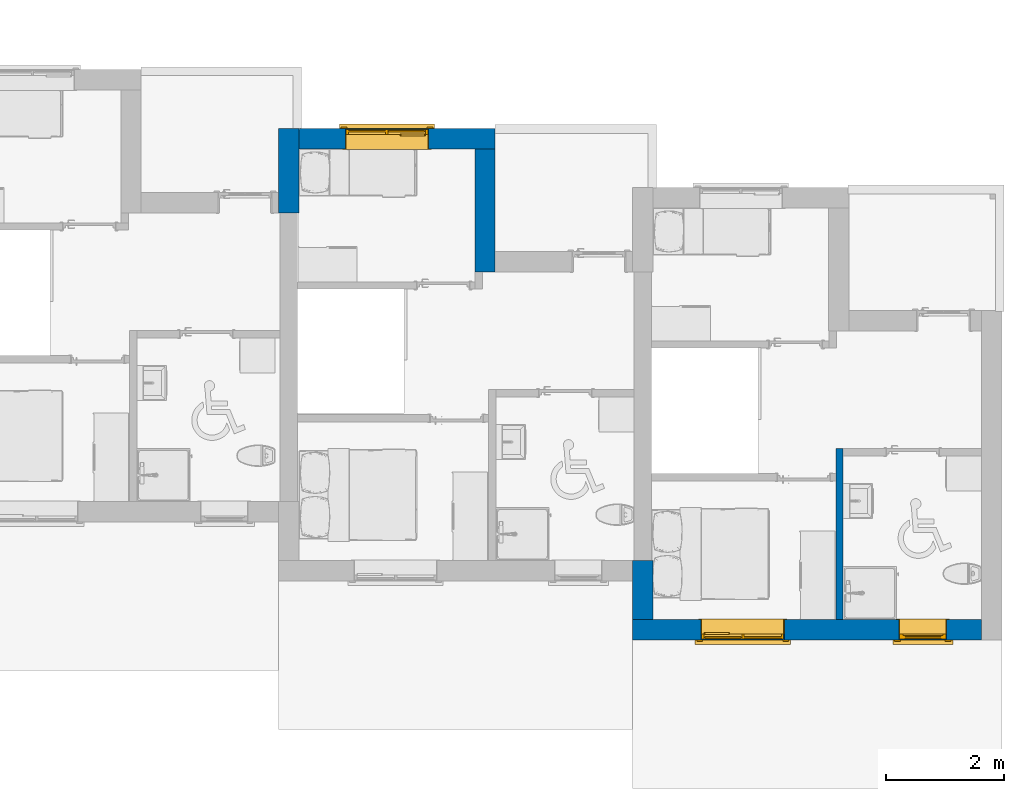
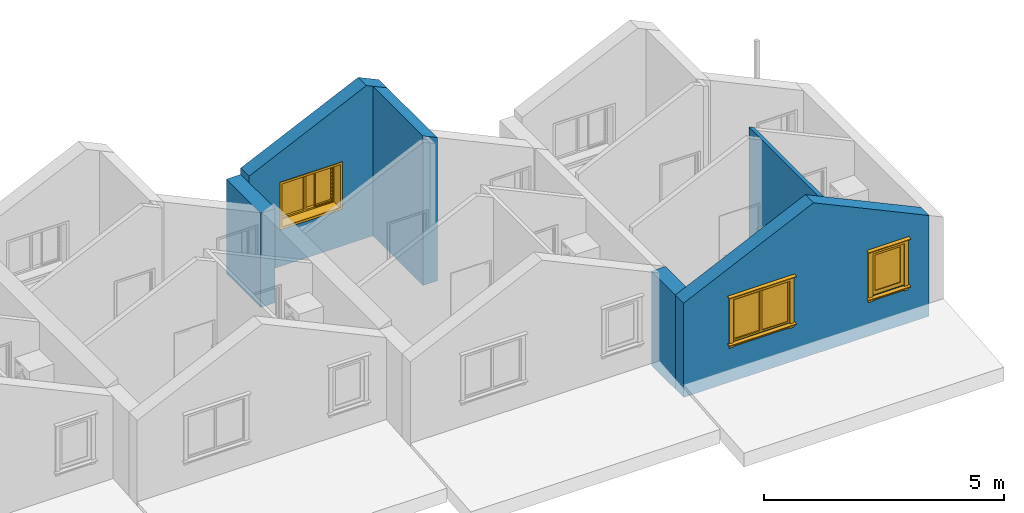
# One storey, part 21 of 44: 6 walls, 3 windows, 3 openings.
"""IFC2X3 building model written with IfcOpenShell, lengths in millimetres."""

from ifc_helpers import new_model, entity, si_unit, converted_unit, direction, frame, frame_2d, origin, place, context, subcontext, project, spatial, polyline, rectangle, extrude, clip, bounded_halfspace, faceted_brep, source, transform, mapped, material, material_list, layer, layer_set, layer_usage, type_object, type_shapes, element, fill, save


model = new_model("IFC2X3")

# Units and contexts
model_context = context("Model", 3, precision=0.01, world=origin(), true_north=direction((0.0, 1.0)))
body_context = subcontext(model_context, "Body", "Model", "MODEL_VIEW")
ifc_project = project(units=[si_unit("LENGTHUNIT", "METRE", prefix="MILLI"), si_unit("AREAUNIT", "SQUARE_METRE"), si_unit("VOLUMEUNIT", "CUBIC_METRE"), converted_unit("PLANEANGLEUNIT", "DEGREE", entity("IfcPlaneAngleMeasure", 0.017453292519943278), si_unit("PLANEANGLEUNIT", "RADIAN"), dimensions=[0, 0, 0, 0, 0, 0, 0])], contexts=[model_context])

# Site, building, storey
site_placement = place(None, origin())
site = spatial("IfcSite", under=ifc_project, at=site_placement, Name="Default", CompositionType="ELEMENT")
building_placement = place(site_placement, origin())
building = spatial("IfcBuilding", under=site, at=building_placement, CompositionType="ELEMENT")
storey_placement = place(building_placement, frame((0.0, 0.0, 2681.0)))
storey = spatial("IfcBuildingStorey", under=building, at=storey_placement, Name="Et. 2", CompositionType="ELEMENT", Elevation=2681.0)

# Wall
ifc_material_1 = material(Name="Vegg - Stående Kledning_smal - HVIT")
ifc_layer_1 = layer(ifc_material_1, 19.0)
ifc_material_2 = material(Name="Vegg - Utlekting")
ifc_layer_2 = layer(ifc_material_2, 36.0)
ifc_layer_3 = layer(ifc_material_2, 23.0)
ifc_material_3 = material(Name="Vegg - Gips - GU")
ifc_layer_4 = layer(ifc_material_3, 9.0)
ifc_material_4 = material(Name="Vegg - Stender - Isolert")
ifc_layer_5 = layer(ifc_material_4, 198.0)
ifc_material_5 = material(Name="Vegg - Påforing - Isolert")
ifc_layer_6 = layer(ifc_material_5, 48.0)
ifc_material_6 = material(Name="Vegg - Gips - Hvit")
ifc_layer_7 = layer(ifc_material_6, 13.000000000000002)
ifc_layer_set_1 = layer_set([ifc_layer_1, ifc_layer_2, ifc_layer_3, ifc_layer_4, ifc_layer_5, ifc_layer_6, ifc_layer_7], Name="Basic Wall:23-Kv(sm)TIG-19_36_23_9_198_48_13")
ifc_layer_usage_1 = layer_usage(ifc_layer_set_1, "AXIS2", "NEGATIVE", 173.0)
wall_type_1 = type_object("IfcWallType", Name="Basic Wall:23-Kv(sm)TIG-19_36_23_9_198_48_13", PredefinedType="STANDARD", material=ifc_layer_set_1)
wall_1_placement = place(storey_placement, frame((22178.00958675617, 15649.180957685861, 0.0), z_axis=(0.0, 0.0, 1.0), x_axis=(0.0, 1.0, 0.0)))
element("IfcWallStandardCase", 1, at=wall_1_placement, inside=storey, type_object=wall_type_1, material=ifc_layer_usage_1, Name="Basic Wall:23-Kv(sm)TIG-19_36_23_9_198_48_13", context=body_context, shape_type="SweptSolid", body=[
    extrude(rectangle(XDim=1432.9999999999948, YDim=345.9999999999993, at=frame_2d((716.4999999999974, 1.4210854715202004e-14), x_axis=(-1.0, 0.0))), origin(), (0.0, 0.0, 1.0), 2400.0),
])

# Wall, opening, window
ifc_layer_usage_2 = layer_usage(ifc_layer_set_1, "AXIS2", "NEGATIVE", 173.0)
wall_2_placement = place(storey_placement, frame((22351.009586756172, 16909.180957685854, 0.0)))
wall_2 = element("IfcWallStandardCase", 2, at=wall_2_placement, inside=storey, type_object=wall_type_1, material=ifc_layer_usage_2, Name="Basic Wall:23-Kv(sm)TIG-19_36_23_9_198_48_13", context=body_context, shape_type="Clipping", body=[
    clip(clip(extrude(rectangle(XDim=3326.9999999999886, YDim=345.9999999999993, at=frame_2d((1663.4999999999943, 3.410605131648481e-13), x_axis=(-1.0, 0.0))), origin(), (0.0, 0.0, 1.0), 3879.5941993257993), bounded_halfspace(frame((0.0, -173.0, 2561.342449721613), z_axis=(-0.42261826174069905, 0.0, 0.9063077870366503), x_axis=(0.0, -1.0, 0.0)), False, frame((0.0, -173.0, 2561.342449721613)), polyline([(0.0, 0.0), (2827.0, 0.0), (2827.0, 346.0), (0.0, 346.0), (0.0, 0.0)]))), bounded_halfspace(frame((2827.0, -173.0, 3879.5941993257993), z_axis=(0.42261826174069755, 0.0, 0.9063077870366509), x_axis=(0.0, 1.0, 0.0)), False, frame((2827.0, -173.0, 3879.5941993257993)), polyline([(0.0, 0.0), (154.0, 0.0), (500.0, 0.0), (500.0, 346.0), (0.0, 346.0), (0.0, 0.0)]))),
])
opening_1_placement = place(wall_2_placement, frame((787.0, -173.0, 990.0)))
opening_1 = element("IfcOpeningElement", 3, at=opening_1_placement, cuts=wall_2, Name="2 ruter vert-post åpning-fast m omramming:14x11M:1", ObjectType="Opening", context=body_context, shape_type="SweptSolid", body=[
    extrude(rectangle(XDim=1410.0000000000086, YDim=1109.9999999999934, at=frame_2d((554.9999999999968, 705.0000000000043), x_axis=(0.0, -1.0))), frame((0.0, 0.0, 0.0), z_axis=(0.0, 1.0, 0.0), x_axis=(0.0, 0.0, 1.0)), (0.0, 0.0, 1.0), 346.0),
])
ifc_material_7 = material(Name="Omramming")
ifc_material_8 = material(Name="Glass - Klart")
ifc_material_9 = material(Name="Karm")
ifc_material_list_1 = material_list([ifc_material_7, ifc_material_8, ifc_material_9])
window_style_1 = type_object("IfcWindowStyle", Name="2 ruter vert-post åpning-fast m omramming:14x11M", ConstructionType="NOTDEFINED", OperationType="NOTDEFINED", ParameterTakesPrecedence=False, Sizeable=False, material=ifc_material_list_1)
shared_shape_1 = source(origin(), body_context, "Body", "Brep", [
    faceted_brep([(-73.0, 368.0, 1199.153701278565), (25.0, 368.0, 1199.153701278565), (25.0, 368.0, 4.105117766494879), (-73.0, 368.0, 4.105117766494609), (1385.0, 346.0, -110.0), (1483.0, 346.0, -110.0), (1483.0, 346.0, -12.776075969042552), (1513.0, 346.0, -12.776075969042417), (1513.0, 346.0, 10.0), (1483.0, 346.0, 10.0), (1483.0, 346.0, 1199.153701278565), (1385.0, 346.0, 1199.153701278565), (1385.0, 346.0, 10.0), (25.0, 346.0, 10.0), (25.0, 346.0, 1199.153701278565), (-73.0, 346.0, 1199.153701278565), (-73.0, 346.0, 10.0), (-103.0, 346.0, 10.0), (-103.0, 346.0, -12.776075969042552), (-73.0, 346.0, -12.776075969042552), (-73.0, 346.0, -110.0), (25.0, 346.0, -110.0), (25.0, 346.0, -12.776075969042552), (1385.0, 346.0, -12.776075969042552), (1483.0, 368.0, 1199.153701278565), (1385.0, 368.0, 1199.153701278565), (1483.0, 368.0, 4.105117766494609), (1385.0, 368.0, -110.0), (1483.0, 368.0, -110.0), (1385.0, 368.0, 4.105117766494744), (-73.0, 368.0, -110.0), (25.0, 368.0, -110.0), (-103.0, 413.6148078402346, -30.89340912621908), (-103.0, 419.3088268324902, -9.643040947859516), (1513.0, 413.6148078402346, -30.89340912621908), (1513.0, 419.3088268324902, -9.643040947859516), (1483.0, 368.0, -18.670958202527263), (1385.0, 368.0, -18.670958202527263), (25.0, 368.0, -18.670958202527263), (-73.0, 368.0, -18.670958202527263)], [[[0, 1, 2, 3]], [[4, 5, 6, 7, 8, 9, 10, 11, 12, 13, 14, 15, 16, 17, 18, 19, 20, 21, 22, 23]], [[24, 25, 11, 10]], [[24, 10, 9, 26]], [[27, 28, 5, 4]], [[11, 25, 29, 12]], [[1, 0, 15, 14]], [[1, 14, 13, 2]], [[30, 31, 21, 20]], [[15, 0, 3, 16]], [[32, 18, 17, 33]], [[34, 35, 8, 7]], [[18, 32, 34, 7, 6, 36, 37, 23, 22, 38, 39, 19]], [[33, 17, 16, 3, 2, 13, 12, 29, 26, 9, 8, 35]], [[32, 33, 35, 34]], [[30, 20, 19, 39]], [[21, 31, 38, 22]], [[27, 4, 23, 37]], [[5, 28, 36, 6]], [[31, 30, 39, 38]], [[25, 24, 26, 29]], [[28, 27, 37, 36]]]),
    faceted_brep([(1513.0, 413.52687511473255, 1180.8011105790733), (1513.0, 418.4444369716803, 1199.153701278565), (1513.0, 346.0, 1218.5651296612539), (1513.0, 346.0, 1198.894882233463), (-103.0, 413.52687511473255, 1180.8011105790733), (-103.0, 346.0, 1198.894882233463), (-103.0, 346.0, 1218.5651296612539), (-103.0, 418.4444369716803, 1199.153701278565)], [[[0, 1, 2, 3]], [[4, 5, 6, 7]], [[1, 0, 4, 7]], [[2, 1, 7, 6]], [[3, 2, 6, 5]], [[0, 3, 5, 4]]]),
    faceted_brep([(25.0, 368.0, 1193.0), (1385.0, 368.0, 1193.0), (1385.0, 368.0, 1095.0), (25.0, 368.0, 1095.0), (25.0, 346.0, 1193.0), (25.0, 346.0, 1095.0), (1385.0, 346.0, 1095.0), (1385.0, 346.0, 1193.0)], [[[0, 1, 2, 3]], [[4, 5, 6, 7]], [[1, 0, 4, 7]], [[2, 1, 7, 6]], [[3, 2, 6, 5]], [[0, 3, 5, 4]]]),
    faceted_brep([(1385.0, 368.0, -20.0), (25.0, 368.0, -20.0), (25.0, 346.0, -20.0), (1385.0, 346.0, -20.0), (1385.0, 368.0, -92.0), (1385.0, 346.0, -92.0), (25.0, 368.0, -92.0), (25.0, 346.0, -92.0)], [[[0, 1, 2, 3]], [[4, 0, 3, 5]], [[6, 4, 5, 7]], [[1, 6, 7, 2]], [[2, 7, 5, 3]], [[1, 0, 4, 6]]]),
    faceted_brep([(1345.0, 288.49999999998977, 65.0), (1345.0, 288.4999999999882, 1045.0), (735.0, 288.4999999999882, 1045.0), (735.0, 288.49999999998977, 65.0), (1345.0, 313.49999999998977, 65.0), (735.0, 313.49999999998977, 65.0), (735.0, 313.4999999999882, 1045.0), (1345.0, 313.4999999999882, 1045.0)], [[[0, 1, 2, 3]], [[4, 5, 6, 7]], [[1, 0, 4, 7]], [[2, 1, 7, 6]], [[3, 2, 6, 5]], [[0, 3, 5, 4]]]),
    faceted_brep([(720.0, 331.0, 50.0), (720.0, 331.0, 1060.0), (720.0, 239.0, 1060.0), (720.0, 239.0, 50.0), (1400.0, 239.0, 10.0), (1400.0, 239.0, 1100.0), (10.0, 239.0, 1100.0), (10.0, 239.0, 10.0), (680.0, 239.0, 1060.0), (680.0, 239.0, 50.0), (50.0, 239.0, 50.0), (50.0, 239.0, 1060.0), (925.0, 239.0, 1060.0), (1360.0, 239.0, 1060.0), (1360.0, 239.0, 50.0), (925.0, 239.0, 50.0), (680.0, 331.0, 1060.0), (680.0, 331.0, 50.0), (1360.0, 331.0, 50.0), (1360.0, 331.0, 1060.0), (50.0, 331.0, 1060.0), (50.0, 331.0, 50.0), (1400.0, 331.0, 1100.0), (1400.0, 331.0, 10.0), (10.0, 331.0, 10.0), (10.0, 331.0, 1100.0), (1360.0, 248.0, 50.0), (1360.0, 248.0, 1060.0), (925.0, 248.0, 1060.0), (940.0, 216.0, 65.0), (940.0, 248.0, 65.0), (940.0, 248.0, 1045.0), (940.0, 216.0, 1045.0), (1345.0, 248.0, 1045.0), (1345.0, 216.0, 1045.0), (1345.0, 248.0, 65.0), (1345.0, 216.0, 65.0), (925.0, 248.0, 50.0), (925.0, 216.0, 50.0), (925.0, 216.0, 1060.0), (1360.0, 216.0, 1060.0), (1360.0, 216.0, 50.0)], [[[0, 1, 2, 3]], [[4, 5, 6, 7], [8, 9, 10, 11], [3, 2, 12, 13, 14, 15]], [[9, 8, 16, 17]], [[1, 0, 18, 19], [17, 16, 20, 21], [22, 23, 24, 25]], [[4, 23, 22, 5]], [[19, 18, 26, 27]], [[5, 22, 25, 6]], [[1, 19, 27, 28, 12, 2]], [[6, 25, 24, 7]], [[20, 11, 10, 21]], [[23, 4, 7, 24]], [[21, 10, 9, 17]], [[29, 30, 31, 32]], [[32, 31, 33, 34]], [[34, 33, 35, 36]], [[30, 29, 36, 35]], [[31, 30, 35, 33], [37, 28, 27, 26]], [[38, 39, 12, 28, 37, 15]], [[39, 40, 13, 12]], [[40, 41, 14, 13]], [[29, 32, 34, 36], [39, 38, 41, 40]], [[41, 38, 15, 14]], [[18, 0, 3, 15, 37, 26]], [[11, 20, 16, 8]]], outer=[[True], [True, False, False], [True], [False, False, True], [True], [True], [True], [True], [True], [True], [True], [True], [True], [True], [True], [True], [False, True], [True], [True], [True], [False, True], [True], [True], [True]]),
    faceted_brep([(680.0, 288.49999999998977, 50.0), (680.0, 288.4999999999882, 1060.0), (50.0, 288.4999999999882, 1060.0), (50.0, 288.49999999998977, 50.0), (680.0, 313.49999999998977, 50.0), (50.0, 313.49999999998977, 50.0), (50.0, 313.4999999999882, 1060.0), (680.0, 313.4999999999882, 1060.0)], [[[0, 1, 2, 3]], [[4, 5, 6, 7]], [[1, 0, 4, 7]], [[2, 1, 7, 6]], [[3, 2, 6, 5]], [[0, 3, 5, 4]]]),
    faceted_brep([(1410.0, 239.0, 1110.0), (1410.0, 239.0, 0.0), (0.0, 239.0, 0.0), (0.0, 239.0, 1110.0), (10.0, 239.0, 10.0), (1400.0, 239.0, 10.0), (1400.0, 239.0, 1100.0), (10.0, 239.0, 1100.0), (1410.0, 0.0, 1110.0), (0.0, 0.0, 1110.0), (0.0, 0.0, 0.0), (1410.0, 0.0, 0.0), (10.0, 0.0, 10.0), (10.0, 0.0, 1100.0), (1400.0, 0.0, 1100.0), (1400.0, 0.0, 10.0)], [[[0, 1, 2, 3], [4, 5, 6, 7]], [[8, 9, 10, 11], [12, 13, 14, 15]], [[1, 0, 8, 11]], [[2, 1, 11, 10]], [[3, 2, 10, 9]], [[0, 3, 9, 8]], [[5, 4, 12, 15]], [[6, 5, 15, 14]], [[7, 6, 14, 13]], [[4, 7, 13, 12]]]),
    faceted_brep([(1405.0, -12.0, 1105.0), (1405.0, 0.0, 1105.0), (1405.0, 0.0, 5.0), (1405.0, -12.0, 5.0), (1457.0, 0.0, 1157.0), (1457.0, -12.0, 1157.0), (1457.0, -12.0, -47.0), (1457.0, 0.0, -47.0), (5.0, 0.0, 5.0), (5.0, -12.0, 5.0), (-47.0, -12.0, -47.0), (-47.0, 0.0, -47.0), (5.0, 0.0, 1105.0), (5.0, -12.0, 1105.0), (-47.0, -12.0, 1157.0), (-47.0, 0.0, 1157.0)], [[[0, 1, 2, 3]], [[4, 5, 6, 7]], [[3, 2, 8, 9]], [[7, 6, 10, 11]], [[9, 8, 12, 13]], [[11, 10, 14, 15]], [[7, 11, 15, 4], [1, 12, 8, 2]], [[13, 12, 1, 0]], [[3, 9, 13, 0], [5, 14, 10, 6]], [[15, 14, 5, 4]]], outer=[[True], [True], [True], [True], [True], [True], [True, False], [True], [False, True], [True]]),
])
type_shapes(window_style_1, [shared_shape_1])
window_1_placement = place(opening_1_placement, origin())
window_1 = element("IfcWindow", 4, at=window_1_placement, inside=storey, type_object=window_style_1, material=ifc_material_list_1, Name="2 ruter vert-post åpning-fast m omramming:14x11M", OverallHeight=1109.9999999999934, OverallWidth=1410.0000000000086, context=body_context, shape_type="MappedRepresentation", body=[
    mapped(shared_shape_1, transform((0.0, 0.0, 0.0), scale=1.0)),
])
fill(opening_1, window_1)

# Wall, openings, windows
ifc_layer_usage_3 = layer_usage(ifc_layer_set_1, "AXIS2", "NEGATIVE", 173.0)
wall_3_placement = place(storey_placement, frame((33919.00958675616, 8581.180957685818, 0.0), z_axis=(0.0, 0.0, 1.0), x_axis=(-1.0, 0.0, 0.0)))
wall_3 = element("IfcWallStandardCase", 5, at=wall_3_placement, inside=storey, type_object=wall_type_1, material=ifc_layer_usage_3, Name="Basic Wall:23-Kv(sm)TIG-19_36_23_9_198_48_13", context=body_context, shape_type="Clipping", body=[
    clip(clip(extrude(rectangle(XDim=5913.999999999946, YDim=346.0000000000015, at=frame_2d((2956.999999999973, -7.958078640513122e-13), x_axis=(-1.0, 0.0))), origin(), (0.0, 0.0, 1.0), 3859.542970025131), bounded_halfspace(frame((0.0, 173.0, 2561.342449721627), z_axis=(-0.42261826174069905, 0.0, 0.9063077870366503), x_axis=(0.0, -1.0, 0.0)), False, frame((0.0, 173.0, 2561.342449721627)), polyline([(0.0, 0.0), (0.0, -346.0), (2341.0, -346.0), (2467.0, -346.0), (2784.0, -346.0), (2784.0, 0.0), (0.0, 0.0)]))), bounded_halfspace(frame((5914.0, -173.0, 2400.0), z_axis=(0.42261826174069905, 0.0, 0.9063077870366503), x_axis=(0.0, 1.0, 0.0)), False, frame((5914.0, -173.0, 2400.0)), polyline([(0.0, 0.0), (0.0, 346.0), (-3130.0, 346.0), (-3130.0, 0.0), (0.0, 0.0)]))),
])
opening_2_placement = place(wall_3_placement, frame((3340.0, -173.0, 990.0)))
opening_2 = element("IfcOpeningElement", 6, at=opening_2_placement, cuts=wall_3, Name="2 ruter vert-post åpning-fast m omramming:14x11M:1", ObjectType="Opening", context=body_context, shape_type="SweptSolid", body=[
    extrude(rectangle(XDim=1410.0000000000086, YDim=1109.9999999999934, at=frame_2d((554.9999999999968, 705.0000000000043), x_axis=(0.0, -1.0))), frame((0.0, 0.0, 0.0), z_axis=(0.0, 1.0, 0.0), x_axis=(0.0, 0.0, 1.0)), (0.0, 0.0, 1.0), 346.0),
])
opening_3_placement = place(wall_3_placement, frame((587.0, -173.0, 990.0)))
opening_3 = element("IfcOpeningElement", 7, at=opening_3_placement, cuts=wall_3, Name="Hel Rute Åpningsvindu m omramming:8x11M:1", ObjectType="Opening", context=body_context, shape_type="SweptSolid", body=[
    extrude(rectangle(XDim=809.9999999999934, YDim=1109.9999999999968, at=frame_2d((554.9999999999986, 404.9999999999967), x_axis=(0.0, -1.0))), frame((0.0, 0.0, 0.0), z_axis=(0.0, 1.0, 0.0), x_axis=(0.0, 0.0, 1.0)), (0.0, 0.0, 1.0), 346.0),
])
window_2_placement = place(opening_2_placement, origin())
window_2 = element("IfcWindow", 8, at=window_2_placement, inside=storey, type_object=window_style_1, material=ifc_material_list_1, Name="2 ruter vert-post åpning-fast m omramming:14x11M", OverallHeight=1109.9999999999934, OverallWidth=1410.0000000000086, context=body_context, shape_type="MappedRepresentation", body=[
    mapped(shared_shape_1, transform((0.0, 0.0, 0.0), scale=1.0)),
])
fill(opening_2, window_2)
ifc_material_list_2 = material_list([ifc_material_7, ifc_material_9, ifc_material_8])
window_style_2 = type_object("IfcWindowStyle", Name="Hel Rute Åpningsvindu m omramming:8x11M", ConstructionType="NOTDEFINED", OperationType="NOTDEFINED", ParameterTakesPrecedence=False, Sizeable=False, material=ifc_material_list_2)
shared_shape_2 = source(origin(), body_context, "Body", "Brep", [
    faceted_brep([(-73.0, 368.0, 1189.1537012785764), (25.0, 368.0, 1189.1537012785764), (25.0, 368.0, -5.894882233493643), (-73.0, 368.0, -5.894882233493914), (785.0, 346.0, -120.0), (883.0, 346.0, -120.0), (883.0, 346.0, -22.776075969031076), (913.0, 346.0, -22.77607596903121), (913.0, 346.0, 0.0), (883.0, 346.0, 0.0), (883.0, 346.0, 1189.1537012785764), (785.0, 346.0, 1189.1537012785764), (785.0, 346.0, 0.0), (25.0, 346.0, 0.0), (25.0, 346.0, 1189.1537012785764), (-73.0, 346.0, 1189.1537012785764), (-73.0, 346.0, 0.0), (-103.0, 346.0, 0.0), (-103.0, 346.0, -22.776075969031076), (-73.0, 346.0, -22.776075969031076), (-73.0, 346.0, -120.0), (25.0, 346.0, -120.0), (25.0, 346.0, -22.776075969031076), (785.0, 346.0, -22.776075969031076), (883.0, 368.0, 1189.1537012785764), (785.0, 368.0, 1189.1537012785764), (883.0, 368.0, -5.894882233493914), (785.0, 368.0, -120.0), (883.0, 368.0, -120.0), (785.0, 368.0, -5.894882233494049), (-73.0, 368.0, -120.0), (25.0, 368.0, -120.0), (-103.0, 413.6148078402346, -40.89340912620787), (-103.0, 419.3088268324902, -19.64304094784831), (913.0, 413.6148078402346, -40.89340912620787), (913.0, 419.3088268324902, -19.64304094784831), (883.0, 368.0, -28.67095820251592), (785.0, 368.0, -28.670958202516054), (25.0, 368.0, -28.67095820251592), (-73.0, 368.0, -28.670958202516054)], [[[0, 1, 2, 3]], [[4, 5, 6, 7, 8, 9, 10, 11, 12, 13, 14, 15, 16, 17, 18, 19, 20, 21, 22, 23]], [[24, 25, 11, 10]], [[24, 10, 9, 26]], [[27, 28, 5, 4]], [[11, 25, 29, 12]], [[1, 0, 15, 14]], [[1, 14, 13, 2]], [[30, 31, 21, 20]], [[15, 0, 3, 16]], [[32, 18, 17, 33]], [[34, 35, 8, 7]], [[18, 32, 34, 7, 6, 36, 37, 23, 22, 38, 39, 19]], [[33, 17, 16, 3, 2, 13, 12, 29, 26, 9, 8, 35]], [[32, 33, 35, 34]], [[30, 20, 19, 39]], [[21, 31, 38, 22]], [[27, 4, 23, 37]], [[5, 28, 36, 6]], [[31, 30, 39, 38]], [[25, 24, 26, 29]], [[28, 27, 37, 36]]]),
    faceted_brep([(913.0, 413.52687511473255, 1170.8011105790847), (913.0, 418.4444369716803, 1189.1537012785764), (913.0, 346.0, 1208.5651296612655), (913.0, 346.0, 1188.8948822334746), (-103.0, 413.52687511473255, 1170.8011105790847), (-103.0, 346.0, 1188.8948822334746), (-103.0, 346.0, 1208.5651296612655), (-103.0, 418.4444369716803, 1189.1537012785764)], [[[0, 1, 2, 3]], [[4, 5, 6, 7]], [[1, 0, 4, 7]], [[2, 1, 7, 6]], [[3, 2, 6, 5]], [[0, 3, 5, 4]]]),
    faceted_brep([(25.0, 368.0, 1183.0), (785.0, 368.0, 1183.0), (785.0, 368.0, 1085.0), (25.0, 368.0, 1085.0), (25.0, 346.0, 1183.0), (25.0, 346.0, 1085.0), (785.0, 346.0, 1085.0), (785.0, 346.0, 1183.0)], [[[0, 1, 2, 3]], [[4, 5, 6, 7]], [[1, 0, 4, 7]], [[2, 1, 7, 6]], [[3, 2, 6, 5]], [[0, 3, 5, 4]]]),
    faceted_brep([(785.0, 368.0, -30.0), (25.0, 368.0, -30.0), (25.0, 346.0, -30.0), (785.0, 346.0, -30.0), (785.0, 368.0, -102.0), (785.0, 346.0, -102.0), (25.0, 368.0, -102.0), (25.0, 346.0, -102.0)], [[[0, 1, 2, 3]], [[4, 0, 3, 5]], [[6, 4, 5, 7]], [[1, 6, 7, 2]], [[2, 7, 5, 3]], [[1, 0, 4, 6]]]),
    faceted_brep([(100.0, 271.0, 100.0), (100.0, 331.0, 100.0), (100.0, 331.0, 1010.0), (100.0, 271.0, 1010.0), (50.0, 331.0, 50.0), (50.0, 271.0, 50.0), (50.0, 271.0, 1060.0), (50.0, 331.0, 1060.0), (710.0, 331.0, 1010.0), (710.0, 271.0, 1010.0), (760.0, 271.0, 1060.0), (760.0, 331.0, 1060.0), (710.0, 331.0, 100.0), (710.0, 271.0, 100.0), (760.0, 271.0, 50.0), (760.0, 331.0, 50.0)], [[[0, 1, 2, 3]], [[4, 5, 6, 7]], [[3, 2, 8, 9]], [[7, 6, 10, 11]], [[9, 8, 12, 13]], [[11, 10, 14, 15]], [[13, 12, 1, 0]], [[3, 9, 13, 0], [5, 14, 10, 6]], [[15, 14, 5, 4]], [[7, 11, 15, 4], [1, 12, 8, 2]]], outer=[[True], [True], [True], [True], [True], [True], [True], [False, True], [True], [True, False]]),
    faceted_brep([(710.0, 288.4999999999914, 100.0), (710.0, 288.49999999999, 1010.0), (100.0, 288.49999999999, 1010.0), (100.0, 288.4999999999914, 100.0), (710.0, 313.4999999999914, 100.0), (100.0, 313.4999999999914, 100.0), (100.0, 313.49999999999, 1010.0), (710.0, 313.49999999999, 1010.0)], [[[0, 1, 2, 3]], [[4, 5, 6, 7]], [[1, 0, 4, 7]], [[2, 1, 7, 6]], [[3, 2, 6, 5]], [[0, 3, 5, 4]]]),
    faceted_brep([(800.0, 239.0, 10.0), (800.0, 331.0, 10.0), (800.0, 331.0, 1100.0), (800.0, 239.0, 1100.0), (760.0, 331.0, 1060.0), (760.0, 331.0, 50.0), (760.0, 271.0, 50.0), (760.0, 271.0, 1060.0), (10.0, 331.0, 1100.0), (10.0, 239.0, 1100.0), (50.0, 331.0, 1060.0), (50.0, 271.0, 1060.0), (10.0, 331.0, 10.0), (10.0, 239.0, 10.0), (50.0, 331.0, 50.0), (50.0, 271.0, 50.0), (65.0, 239.0, 65.0), (65.0, 239.0, 1045.0), (745.0, 239.0, 1045.0), (745.0, 239.0, 65.0), (65.0, 271.0, 65.0), (65.0, 271.0, 1045.0), (745.0, 271.0, 1045.0), (745.0, 271.0, 65.0)], [[[0, 1, 2, 3]], [[4, 5, 6, 7]], [[3, 2, 8, 9]], [[10, 4, 7, 11]], [[9, 8, 12, 13]], [[14, 10, 11, 15]], [[2, 1, 12, 8], [5, 4, 10, 14]], [[1, 0, 13, 12]], [[0, 3, 9, 13], [16, 17, 18, 19]], [[5, 14, 15, 6]], [[16, 20, 21, 17]], [[17, 21, 22, 18]], [[18, 22, 23, 19]], [[20, 16, 19, 23]], [[7, 6, 15, 11], [21, 20, 23, 22]]]),
    faceted_brep([(810.0, 239.0, 1110.0), (810.0, 239.0, 0.0), (0.0, 239.0, 0.0), (0.0, 239.0, 1110.0), (10.0, 239.0, 10.0), (800.0, 239.0, 10.0), (800.0, 239.0, 1100.0), (10.0, 239.0, 1100.0), (810.0, 0.0, 1110.0), (0.0, 0.0, 1110.0), (0.0, 0.0, 0.0), (810.0, 0.0, 0.0), (10.0, 0.0, 10.0), (10.0, 0.0, 1100.0), (800.0, 0.0, 1100.0), (800.0, 0.0, 10.0)], [[[0, 1, 2, 3], [4, 5, 6, 7]], [[8, 9, 10, 11], [12, 13, 14, 15]], [[1, 0, 8, 11]], [[2, 1, 11, 10]], [[3, 2, 10, 9]], [[0, 3, 9, 8]], [[5, 4, 12, 15]], [[6, 5, 15, 14]], [[7, 6, 14, 13]], [[4, 7, 13, 12]]]),
    faceted_brep([(5.0, -12.0, 1105.0), (5.0, 0.0, 1105.0), (805.0, 0.0, 1105.0), (805.0, -12.0, 1105.0), (-47.0, 0.0, 1157.0), (-47.0, -12.0, 1157.0), (857.0, -12.0, 1157.0), (857.0, 0.0, 1157.0), (805.0, 0.0, 5.0), (805.0, -12.0, 5.0), (857.0, -12.0, -47.0), (857.0, 0.0, -47.0), (5.0, 0.0, 5.0), (5.0, -12.0, 5.0), (-47.0, -12.0, -47.0), (-47.0, 0.0, -47.0)], [[[0, 1, 2, 3]], [[4, 5, 6, 7]], [[3, 2, 8, 9]], [[7, 6, 10, 11]], [[9, 8, 12, 13]], [[11, 10, 14, 15]], [[7, 11, 15, 4], [1, 12, 8, 2]], [[13, 12, 1, 0]], [[3, 9, 13, 0], [5, 14, 10, 6]], [[15, 14, 5, 4]]], outer=[[True], [True], [True], [True], [True], [True], [True, False], [True], [False, True], [True]]),
])
type_shapes(window_style_2, [shared_shape_2])
window_3_placement = place(opening_3_placement, origin())
window_3 = element("IfcWindow", 9, at=window_3_placement, inside=storey, type_object=window_style_2, material=ifc_material_list_2, Name="Hel Rute Åpningsvindu m omramming:8x11M", OverallHeight=1109.9999999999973, OverallWidth=809.9999999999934, context=body_context, shape_type="MappedRepresentation", body=[
    mapped(shared_shape_2, transform((0.0, 0.0, 0.0), scale=1.0)),
])
fill(opening_3, window_3)

# Walls
ifc_layer_usage_4 = layer_usage(ifc_layer_set_1, "AXIS2", "NEGATIVE", 173.0)
wall_4_placement = place(storey_placement, frame((28178.009586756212, 8754.180957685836, 0.0), z_axis=(0.0, 0.0, 1.0), x_axis=(0.0, 1.0, 0.0)))
element("IfcWallStandardCase", 10, at=wall_4_placement, inside=storey, type_object=wall_type_1, material=ifc_layer_usage_4, Name="Basic Wall:23-Kv(sm)TIG-19_36_23_9_198_48_13", context=body_context, shape_type="SweptSolid", body=[
    extrude(rectangle(XDim=1000.0000000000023, YDim=345.9999999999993, at=frame_2d((500.00000000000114, 0.0), x_axis=(-1.0, 0.0))), origin(), (0.0, 0.0, 1.0), 2400.0),
])
ifc_layer_usage_5 = layer_usage(ifc_layer_set_1, "AXIS2", "NEGATIVE", 173.0)
wall_5_placement = place(storey_placement, frame((25505.00958675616, 16736.180957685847, 0.0), z_axis=(0.0, 0.0, 1.0), x_axis=(0.0, -1.0, 0.0)))
element("IfcWallStandardCase", 11, at=wall_5_placement, inside=storey, type_object=wall_type_1, material=ifc_layer_usage_5, Name="Basic Wall:23-Kv(sm)TIG-19_36_23_9_198_48_13", context=body_context, shape_type="Clipping", body=[
    clip(extrude(rectangle(XDim=2087.000000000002, YDim=345.9999999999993, at=frame_2d((1043.500000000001, 5.258016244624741e-13), x_axis=(-1.0, 0.0))), origin(), (0.0, 0.0, 1.0), 3807.782819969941), bounded_halfspace(frame((0.0, -173.0, 3807.782819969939), z_axis=(0.0, 0.42261826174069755, 0.9063077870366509), x_axis=(-1.0, 0.0, 0.0)), False, frame((0.0, -173.0, 3807.782819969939)), polyline([(0.0, 0.0), (2087.0, 0.0), (2087.0, 6.0), (2087.0, 132.0), (2087.0, 346.0), (1741.0, 346.0), (0.0, 346.0), (0.0, 0.0)]))),
])
ifc_material_10 = material(Name="Vegg - Gips - Innvendig - Hvit")
ifc_layer_8 = layer(ifc_material_10, 13.000000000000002)
ifc_material_11 = material(Name="Vegg - Stender - Stål - Isolert")
ifc_layer_9 = layer(ifc_material_11, 100.0)
ifc_layer_10 = layer(ifc_material_10, 13.000000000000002)
ifc_layer_set_2 = layer_set([ifc_layer_8, ifc_layer_9, ifc_layer_10], Name="Basic Wall:24-GSIG-13_100_13")
ifc_layer_usage_6 = layer_usage(ifc_layer_set_2, "AXIS2", "NEGATIVE", 63.00000000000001)
wall_type_2 = type_object("IfcWallType", Name="Basic Wall:24-GSIG-13_100_13", PredefinedType="STANDARD", material=ifc_layer_set_2)
wall_6_placement = place(storey_placement, frame((31515.00958675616, 11658.058719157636, 0.0), z_axis=(0.0, 0.0, 1.0), x_axis=(0.0, -1.0, 0.0)))
element("IfcWallStandardCase", 12, at=wall_6_placement, inside=storey, type_object=wall_type_2, material=ifc_layer_usage_6, Name="Basic Wall:24-GSIG-13_100_13", context=body_context, shape_type="Clipping", body=[
    clip(extrude(rectangle(XDim=2903.877761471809, YDim=125.99999999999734, at=frame_2d((1451.9388807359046, 4.405364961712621e-13), x_axis=(-1.0, 0.0))), origin(), (0.0, 0.0, 1.0), 3711.7234423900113), bounded_halfspace(frame((0.0, -63.0, 3711.7234423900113), z_axis=(0.0, 0.42261826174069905, 0.9063077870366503), x_axis=(-1.0, 0.0, 0.0)), False, frame((0.0, -63.0, 3711.7234423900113)), polyline([(0.0, 0.0), (426.0, 0.0), (552.0, 0.0), (2903.8777614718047, 0.0), (2903.8777614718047, 126.0), (126.0, 126.0), (0.0, 126.0), (0.0, 0.0)]))),
])

save(model, "model.ifc")
